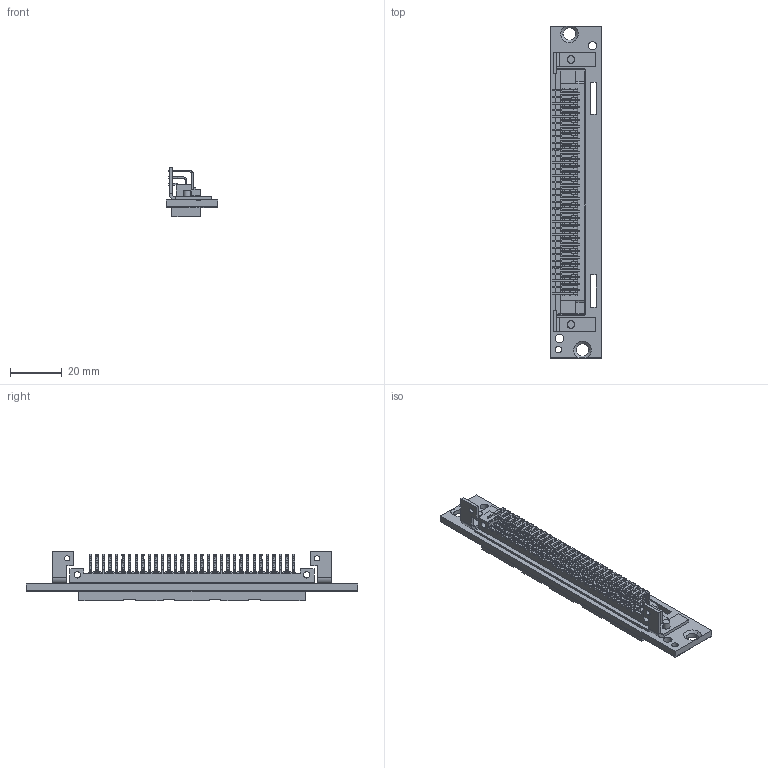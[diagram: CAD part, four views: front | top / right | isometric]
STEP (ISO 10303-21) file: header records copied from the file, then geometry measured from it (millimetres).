
FILE_DESCRIPTION((''),'2;1');
FILE_NAME('CU_PXIE-4330_FRTCONN','2010-11-18T',('dkendric'),(''),'PRO/ENGINEER BY PARAMETRIC TECHNOLOGY CORPORATION, 2006510','PRO/ENGINEER BY PARAMETRIC TECHNOLOGY CORPORATION, 2006510','');
FILE_SCHEMA(('CONFIG_CONTROL_DESIGN'));
Products named in the file (1): CU_PXIE-4330_FRTCONN
Bounding box: 20.02 x 128.63 x 19.27 mm (x, y, z)
Volume: 10625.6 mm3; surface area: 15119.2 mm2
Topology: 2 solids, 2 shells, 2766 faces, 7713 edges, 5153 vertices
Faces by surface type: plane 2522, cylinder 240, cone 4
Entity records: 87740 total; most frequent: CARTESIAN_POINT 15913, ORIENTED_EDGE 15426, DIRECTION 13785, EDGE_CURVE 7713, VECTOR 7157, LINE 7157, VERTEX_POINT 5153, AXIS2_PLACEMENT_3D 3314
